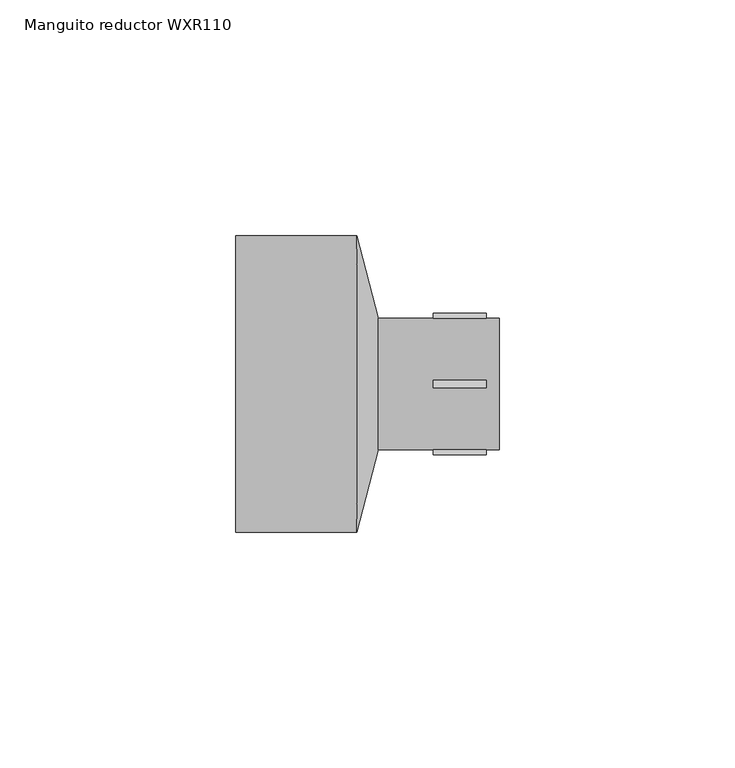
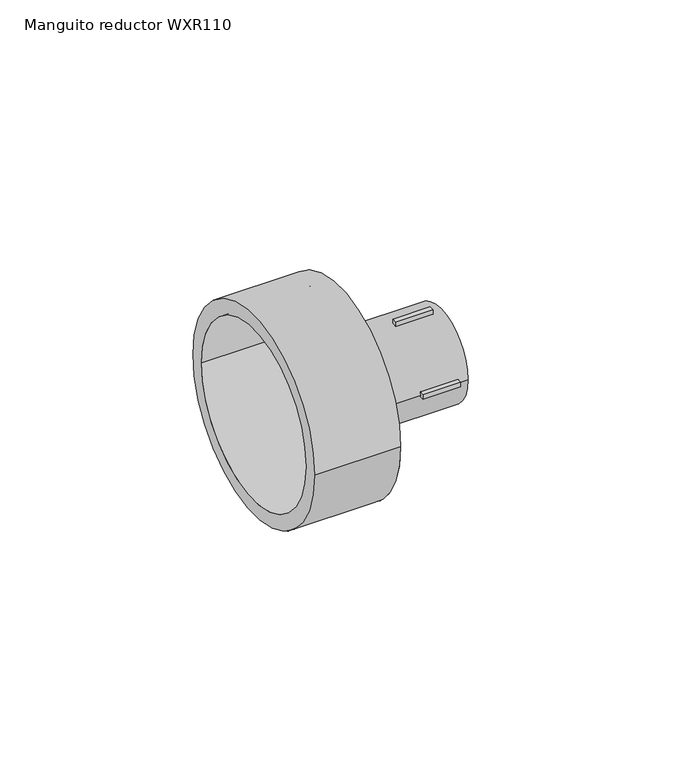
"""IFC4 building model written with IfcOpenShell, lengths in millimetres: pipe fitting geometry, EGB_VASEN_ PPR_Manguito reductor WXR110 : Manguito reductor WXR110."""

from ifc_helpers import new_model, si_unit, point, frame, origin, origin_2d, place, context, project, spatial, polyline, circle_curve, trimmed, segment, composite_curve, outline, extrude, source, transform, mapped, element, save
from ifc_brep_helpers import plane_surface, revolved_surface, advanced_brep


def manguito_reductor_wxr110_621840f4(model_context):
    return source(origin(), model_context, "Body", "SolidModel", [
        extrude(outline(polyline([(14.0, -0.75), (14.0, 0.75), (25.2, 0.75), (25.2, -0.75), (14.0, -0.75)])), frame((0.0, 0.0, 13.0), z_axis=(0.0, 0.0, 1.0), x_axis=(1.0, 0.0, 0.0)), (0.0, 0.0, 1.0), 2.0),
        extrude(outline(polyline([(14.0, -0.75), (14.0, 0.75), (25.2, 0.75), (25.2, -0.75), (14.0, -0.75)])), frame((0.0, 0.0, -15.0), z_axis=(0.0, 0.0, 1.0), x_axis=(1.0, 0.0, 0.0)), (0.0, 0.0, 1.0), 2.0),
        extrude(outline(polyline([(14.0, 13.0), (14.0, 15.0), (25.2, 15.0), (25.2, 13.0), (14.0, 13.0)])), frame((0.0, 0.0, -0.75), z_axis=(0.0, 0.0, 1.0), x_axis=(1.0, 0.0, 0.0)), (0.0, 0.0, 1.0), 1.5),
        extrude(outline(polyline([(14.0, -15.0), (14.0, -13.0), (25.2, -13.0), (25.2, -15.0), (14.0, -15.0)])), frame((0.0, 0.0, -0.75), z_axis=(0.0, 0.0, 1.0), x_axis=(1.0, 0.0, 0.0)), (0.0, 0.0, 1.0), 1.5),
        extrude(outline(composite_curve([segment(trimmed(circle_curve(origin_2d(), 14.0), [point((-14.0, 0.0))], [point((14.0, 0.0))], False, "CARTESIAN"), True, "CONTINUOUS"), segment(trimmed(circle_curve(origin_2d(), 14.0), [point((14.0, 0.0))], [point((-14.0, 0.0))], False, "CARTESIAN"), True, "CONTINUOUS")], self_intersect=False), holes=[composite_curve([segment(trimmed(circle_curve(origin_2d(), 10.0), [point((-10.0, 0.0))], [point((10.0, 0.0))], True, "CARTESIAN"), True, "CONTINUOUS"), segment(trimmed(circle_curve(origin_2d(), 10.0), [point((10.0, 0.0))], [point((-10.0, 0.0))], True, "CARTESIAN"), True, "CONTINUOUS")], self_intersect=False)]), frame((2.24, 0.0, 0.0), z_axis=(1.0, 0.0, 0.0), x_axis=(0.0, 1.0, 0.0)), (0.0, 0.0, 1.0), 25.76),
        extrude(outline(composite_curve([segment(trimmed(circle_curve(origin_2d(), 31.5), [point((-31.5, 0.0))], [point((31.5, 0.0))], False, "CARTESIAN"), True, "CONTINUOUS"), segment(trimmed(circle_curve(origin_2d(), 31.5), [point((31.5, 0.0))], [point((-31.5, 0.0))], False, "CARTESIAN"), True, "CONTINUOUS")], self_intersect=False), holes=[composite_curve([segment(trimmed(circle_curve(origin_2d(), 27.0), [point((-27.0, 0.0))], [point((27.0, 0.0))], True, "CARTESIAN"), True, "CONTINUOUS"), segment(trimmed(circle_curve(origin_2d(), 27.0), [point((27.0, 0.0))], [point((-27.0, 0.0))], True, "CARTESIAN"), True, "CONTINUOUS")], self_intersect=False)]), frame((-28.0, 0.0, 0.0), z_axis=(1.0, 0.0, 0.0), x_axis=(0.0, 1.0, 0.0)), (0.0, 0.0, 1.0), 25.76),
        advanced_brep(
        [(2.24, -14.0, 0.0), (2.24, 14.0, 0.0), (-2.24, -31.5, 0.0), (-2.24, 31.5, 0.0)],
        [
            (0, 1, circle_curve(frame((2.24, 0.0, 0.0), z_axis=(1.0, 0.0, 0.0), x_axis=(0.0, -1.0, 0.0)), 14.0)),
            (1, 0, circle_curve(frame((2.24, 0.0, 0.0), z_axis=(1.0, 0.0, 0.0), x_axis=(0.0, 1.0, 0.0)), 14.0)),
            (2, 3, circle_curve(frame((-2.24, 0.0, 0.0), z_axis=(-1.0, 0.0, 0.0), x_axis=(0.0, 1.0, 0.0)), 31.5)),
            (3, 2, circle_curve(frame((-2.24, 0.0, 0.0), z_axis=(-1.0, 0.0, 0.0), x_axis=(0.0, -1.0, 0.0)), 31.5)),
            (3, 1),
            (0, 2),
        ],
        [
            plane_surface(frame((2.24, 0.0, 0.0), z_axis=(1.0, 0.0, 0.0), x_axis=(0.0, 0.0, -1.0))),
            plane_surface(frame((-2.24, 0.0, 0.0), z_axis=(-1.0, 0.0, 0.0), x_axis=(0.0, 0.0, -1.0))),
            revolved_surface(polyline([(2.24, -14.0, 0.0), (-2.24, -31.5, 0.0)]), (5.824, 0.0, 0.0), (-1.0, 0.0, 0.0)),
            revolved_surface(polyline([(2.24, 14.0, 0.0), (-2.24, 31.5, 0.0)]), (5.824, 0.0, 0.0), (-1.0, 0.0, 0.0)),
        ],
        [
            (0, [[1, 2]]),
            (1, [[3, 4]]),
            (2, [[-4, 5, -1, 6]]),
            (3, [[-3, -6, -2, -5]]),
        ],
    ),
    ])


if __name__ == "__main__":
    model = new_model("IFC4")
    model_context = context("Model", 3, world=origin())
    ifc_project = project(units=[si_unit("LENGTHUNIT", "METRE", prefix="MILLI")], contexts=[model_context])
    site = spatial("IfcSite", under=ifc_project)
    building = spatial("IfcBuilding", under=site)
    placement = place(None, origin())
    manguito_reductor_wxr110_shape = manguito_reductor_wxr110_621840f4(model_context)
    element("IfcPipeFitting", 1, ObjectType="EGB_VASEN_ PPR_Manguito reductor WXR110 : Manguito reductor WXR110", at=placement, inside=building, context=model_context, shape_type="MappedRepresentation", body=[
        mapped(manguito_reductor_wxr110_shape, transform((0.0, 0.0, 0.0), x_axis=(1.0, 0.0, 0.0), y_axis=(0.0, 1.0, 0.0), z_axis=(0.0, 0.0, 1.0))),
    ])
    save(model, "model.ifc")
